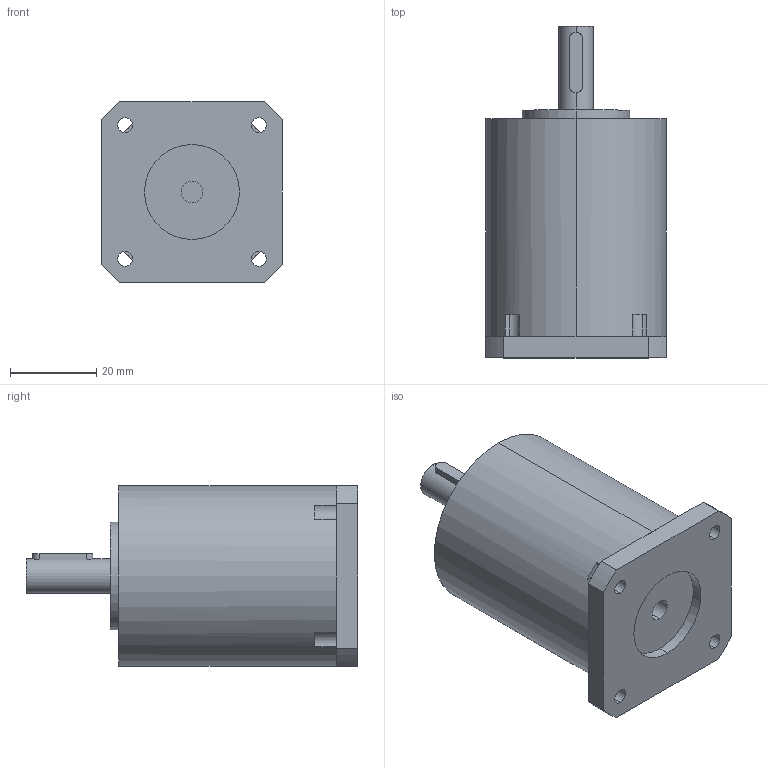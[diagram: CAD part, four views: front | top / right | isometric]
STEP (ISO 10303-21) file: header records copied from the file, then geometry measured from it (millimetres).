
FILE_DESCRIPTION (( 'STEP AP214' ), '1' );
FILE_NAME ('42PLF熬厒儂邧撰.STEP', '2021-02-22T09:04:09', ( 'wimxt.com' ), ( 'wimxt.com' ), 'SwSTEP 2.0', 'SolidWorks 2014', '' );
FILE_SCHEMA (( 'AUTOMOTIVE_DESIGN' ));
Length unit declared in the file: millimetre
Products named in the file (1): 42PLF熬厒儂邧撰
Bounding box: 42 x 77 x 42 mm (x, y, z)
Volume: 78918.2 mm3; surface area: 12482.3 mm2
Topology: 1 solids, 1 shells, 67 faces, 169 edges, 104 vertices
Faces by surface type: cylinder 38, plane 21, cone 8
Entity records: 2073 total; most frequent: CARTESIAN_POINT 385, DIRECTION 377, ORIENTED_EDGE 322, EDGE_CURVE 161, AXIS2_PLACEMENT_3D 152, VERTEX_POINT 104, CIRCLE 84, EDGE_LOOP 83
